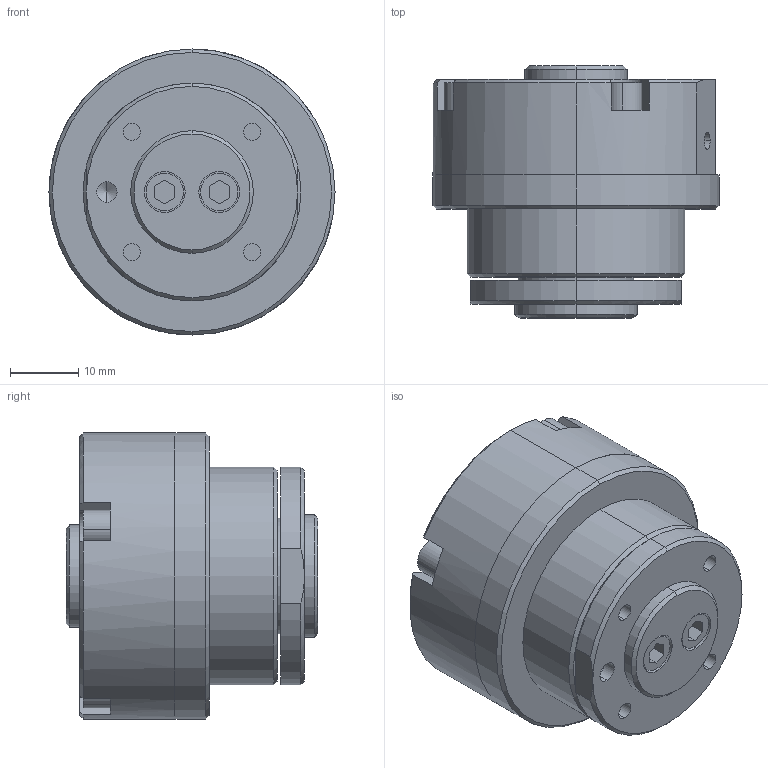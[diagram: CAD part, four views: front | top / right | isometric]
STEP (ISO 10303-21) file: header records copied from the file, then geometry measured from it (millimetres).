
FILE_DESCRIPTION (( 'STEP AP203' ), '1' );
FILE_NAME ('FCD-05RNC-1T.STEP', '2020-10-13T01:12:02', ( '' ), ( '' ), 'SwSTEP 2.0', 'SolidWorks 2013', '' );
FILE_SCHEMA (( 'CONFIG_CONTROL_DESIGN' ));
Length unit declared in the file: millimetre
Products named in the file (1): FCD-05RNC-1T
Bounding box: 42 x 37 x 42 mm (x, y, z)
Volume: 37119.5 mm3; surface area: 12066.1 mm2
Topology: 2 solids, 2 shells, 168 faces, 407 edges, 254 vertices
Faces by surface type: plane 75, cylinder 60, cone 33
Entity records: 4913 total; most frequent: CARTESIAN_POINT 864, DIRECTION 860, ORIENTED_EDGE 782, EDGE_CURVE 391, AXIS2_PLACEMENT_3D 314, VERTEX_POINT 254, VECTOR 232, LINE 232
